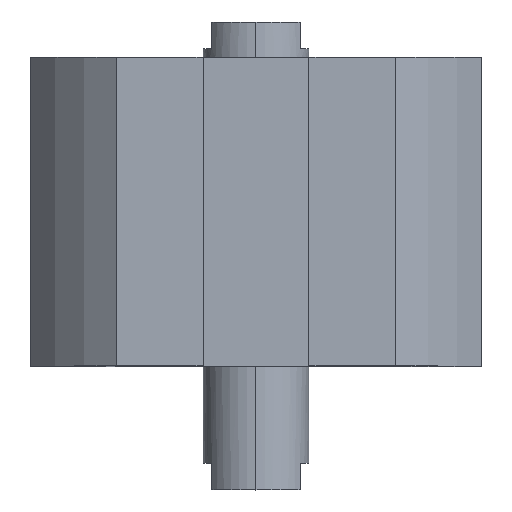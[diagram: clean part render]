
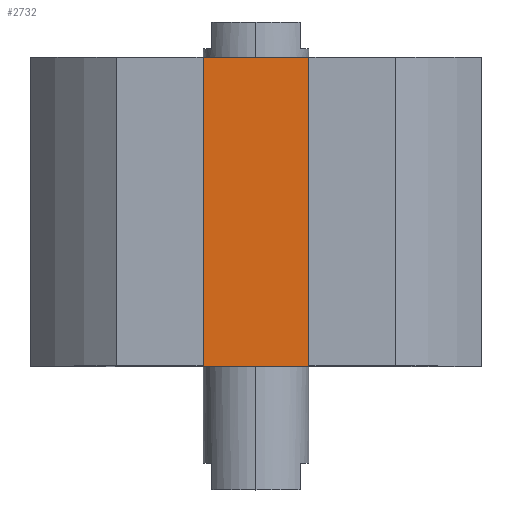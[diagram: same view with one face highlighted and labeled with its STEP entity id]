
A CAD part, top view. The second image highlights one B-rep face of the part: STEP entity #2732.
In plain terms, the highlighted planar face has unit normal (0, 0, 1).
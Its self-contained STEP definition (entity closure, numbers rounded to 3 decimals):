
#111 = CARTESIAN_POINT ( 'NONE',  ( 0., -35., 17. ) ) ;
#224 = ORIENTED_EDGE ( 'NONE', *, *, #3417, .F. ) ;
#278 = ORIENTED_EDGE ( 'NONE', *, *, #2943, .T. ) ;
#447 = VECTOR ( 'NONE', #1385, 1000. ) ;
#677 = CARTESIAN_POINT ( 'NONE',  ( 0., 0., 17. ) ) ;
#710 = PLANE ( 'NONE',  #1599 ) ;
#730 = EDGE_CURVE ( 'NONE', #1827, #2825, #4030, .T. ) ;
#1077 = VERTEX_POINT ( 'NONE', #3462 ) ;
#1087 = LINE ( 'NONE', #677, #1527 ) ;
#1214 = CARTESIAN_POINT ( 'NONE',  ( 0., -35., 17. ) ) ;
#1385 = DIRECTION ( 'NONE',  ( 0., 1., 0. ) ) ;
#1440 = LINE ( 'NONE', #2882, #447 ) ;
#1527 = VECTOR ( 'NONE', #2829, 1000. ) ;
#1599 = AXIS2_PLACEMENT_3D ( 'NONE', #111, #2862, #3506 ) ;
#1708 = VERTEX_POINT ( 'NONE', #3828 ) ;
#1772 = CARTESIAN_POINT ( 'NONE',  ( -7.7, -35., 17. ) ) ;
#1827 = VERTEX_POINT ( 'NONE', #1772 ) ;
#1854 = ORIENTED_EDGE ( 'NONE', *, *, #3552, .F. ) ;
#2282 = DIRECTION ( 'NONE',  ( 0., 1., 0. ) ) ;
#2732 = ADVANCED_FACE ( 'NONE', ( #3216 ), #710, .T. ) ;
#2763 = DIRECTION ( 'NONE',  ( 1., 0., 0. ) ) ;
#2825 = VERTEX_POINT ( 'NONE', #2942 ) ;
#2829 = DIRECTION ( 'NONE',  ( 1., 0., 0. ) ) ;
#2858 = CARTESIAN_POINT ( 'NONE',  ( -7.7, -35., 17. ) ) ;
#2862 = DIRECTION ( 'NONE',  ( 0., 0., 1. ) ) ;
#2882 = CARTESIAN_POINT ( 'NONE',  ( 7.7, -35., 17. ) ) ;
#2942 = CARTESIAN_POINT ( 'NONE',  ( 7.7, -35., 17. ) ) ;
#2943 = EDGE_CURVE ( 'NONE', #2825, #1708, #1440, .T. ) ;
#3216 = FACE_OUTER_BOUND ( 'NONE', #3394, .T. ) ;
#3362 = VECTOR ( 'NONE', #2282, 1000. ) ;
#3387 = VECTOR ( 'NONE', #2763, 1000. ) ;
#3394 = EDGE_LOOP ( 'NONE', ( #224, #1854, #4038, #278 ) ) ;
#3417 = EDGE_CURVE ( 'NONE', #1077, #1708, #1087, .T. ) ;
#3462 = CARTESIAN_POINT ( 'NONE',  ( -7.7, 0., 17. ) ) ;
#3506 = DIRECTION ( 'NONE',  ( 1., 0., 0. ) ) ;
#3552 = EDGE_CURVE ( 'NONE', #1827, #1077, #3905, .T. ) ;
#3828 = CARTESIAN_POINT ( 'NONE',  ( 7.7, 0., 17. ) ) ;
#3905 = LINE ( 'NONE', #2858, #3362 ) ;
#4030 = LINE ( 'NONE', #1214, #3387 ) ;
#4038 = ORIENTED_EDGE ( 'NONE', *, *, #730, .T. ) ;
